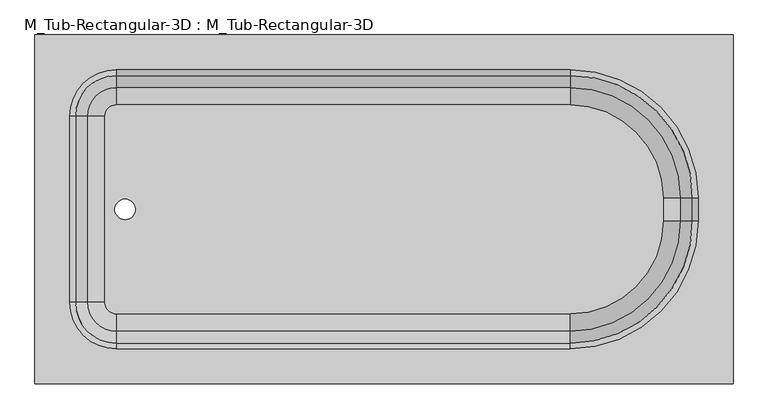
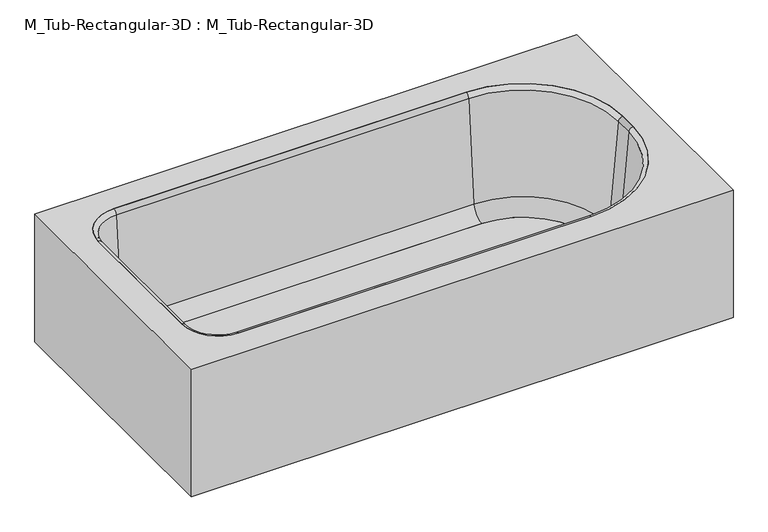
"""IFC4 building model written with IfcOpenShell, lengths in millimetres: flow terminal geometry, M_Tub-Rectangular-3D : M_Tub-Rectangular-3D."""

from ifc_helpers import new_model, si_unit, point, frame, frame_2d, origin, place, context, project, spatial, polyline, circle_curve, ellipse_curve, trimmed, segment, composite_curve, outline, extrude, source, transform, mapped, element, save
from ifc_brep_helpers import plane_surface, cylinder_surface, revolved_surface, advanced_brep


def m_tub_rectangular_3d_m_tub_rectangular_3d_3a981ad5(model_context):
    return source(origin(), model_context, "Body", "SolidModel", [
        advanced_brep(
        [(414.3970313, -937.0, 380.0), (414.3970313, -175.0, 380.0), (-1110.6029687, -175.0, 380.0), (-1110.6029687, -937.0, 380.0), (-932.8029687, -860.8, 380.0), (-1034.4029687, -759.2, 380.0), (-1034.4029687, -352.8, 380.0), (-932.8029687, -251.2, 380.0), (58.7970313, -251.2, 380.0), (338.1970313, -530.6, 380.0), (338.1970313, -581.4, 380.0), (58.7970313, -860.8, 380.0), (395.3470313, -917.95, 360.95), (-1091.5529687, -917.95, 360.95), (-1091.5529687, -194.05, 360.95), (395.3470313, -194.05, 360.95), (-932.8029687, -860.8, 360.95), (58.7970313, -860.8, 360.95), (338.1970313, -581.4, 360.95), (338.1970313, -530.6, 360.95), (58.7970313, -251.2, 360.95), (-932.8029687, -251.2, 360.95), (-1034.4029687, -352.8, 360.95), (-1034.4029687, -759.2, 360.95), (-1110.6029687, -937.0, 0.0), (414.3970313, -937.0, 0.0), (-1110.6029687, -175.0, 0.0), (414.3970313, -175.0, 0.0), (395.3470313, -917.95, 0.0), (395.3470313, -194.05, 0.0), (-1091.5529687, -194.05, 0.0), (-1091.5529687, -917.95, 0.0)],
        [
            (0, 1),
            (1, 2),
            (2, 3),
            (3, 0),
            (4, 5, circle_curve(frame((-932.8029687, -759.2, 380.0), z_axis=(0.0, 0.0, -1.0), x_axis=(0.0, -1.0, 0.0)), 101.6)),
            (5, 6),
            (6, 7, circle_curve(frame((-932.8029687, -352.8, 380.0), z_axis=(0.0, 0.0, -1.0), x_axis=(0.0, -1.0, 0.0)), 101.6)),
            (7, 8),
            (8, 9, circle_curve(frame((58.7970313, -530.6, 380.0), z_axis=(0.0, 0.0, -1.0), x_axis=(0.0, -1.0, 0.0)), 279.4)),
            (9, 10),
            (10, 11, circle_curve(frame((58.7970313, -581.4, 380.0), z_axis=(0.0, 0.0, -1.0), x_axis=(0.0, -1.0, 0.0)), 279.4)),
            (11, 4),
            (12, 13),
            (13, 14),
            (14, 15),
            (15, 12),
            (16, 17),
            (17, 18, circle_curve(frame((58.7970313, -581.4, 360.95), z_axis=(0.0, 0.0, 1.0), x_axis=(0.0, -1.0, 0.0)), 279.4)),
            (18, 19),
            (19, 20, circle_curve(frame((58.7970313, -530.6, 360.95), z_axis=(0.0, 0.0, 1.0), x_axis=(0.0, -1.0, 0.0)), 279.4)),
            (20, 21),
            (21, 22, circle_curve(frame((-932.8029687, -352.8, 360.95), z_axis=(0.0, 0.0, 1.0), x_axis=(0.0, -1.0, 0.0)), 101.6)),
            (22, 23),
            (23, 16, circle_curve(frame((-932.8029687, -759.2, 360.95), z_axis=(0.0, 0.0, 1.0), x_axis=(0.0, -1.0, 0.0)), 101.6)),
            (3, 24),
            (24, 25),
            (25, 0),
            (2, 26),
            (26, 24),
            (1, 27),
            (27, 26),
            (25, 27),
            (11, 17),
            (16, 4),
            (10, 18),
            (9, 19),
            (8, 20),
            (7, 21),
            (6, 22),
            (5, 23),
            (28, 29),
            (29, 30),
            (30, 31),
            (31, 28),
            (28, 12),
            (15, 29),
            (14, 30),
            (13, 31),
        ],
        [
            plane_surface(frame((-1110.6029687, -937.0, 380.0), z_axis=(0.0, 0.0, 1.0), x_axis=(-1.0, 0.0, 0.0))),
            plane_surface(frame((-1110.6029687, -937.0, 360.95), z_axis=(0.0, 0.0, -1.0), x_axis=(1.0, 0.0, 0.0))),
            plane_surface(frame((414.3970313, -937.0, 380.0), z_axis=(0.0, -1.0, 0.0), x_axis=(0.0, 0.0, -1.0))),
            plane_surface(frame((-1110.6029687, -937.0, 380.0), z_axis=(-1.0, 0.0, 0.0), x_axis=(0.0, 0.0, -1.0))),
            plane_surface(frame((-1110.6029687, -175.0, 380.0), z_axis=(0.0, 1.0, 0.0), x_axis=(0.0, 0.0, -1.0))),
            plane_surface(frame((414.3970313, -175.0, 380.0), z_axis=(1.0, 0.0, 0.0), x_axis=(0.0, 0.0, -1.0))),
            plane_surface(frame((-932.8029687, -860.8, 380.0), z_axis=(0.0, 1.0, 0.0), x_axis=(0.0, 0.0, -1.0))),
            revolved_surface(polyline([(58.7970313, -860.8, 360.95), (58.7970313, -860.8, 380.0)]), (58.7970313, -581.4, 380.0), (0.0, 0.0, -1.0)),
            plane_surface(frame((338.1970313, -581.4, 380.0), z_axis=(-1.0, 0.0, 0.0), x_axis=(0.0, 0.0, -1.0))),
            revolved_surface(polyline([(58.7970313, -810.0, 360.95), (58.7970313, -810.0, 380.0)]), (58.7970313, -530.6, 380.0), (0.0, 0.0, -1.0)),
            plane_surface(frame((58.7970313, -251.2, 380.0), z_axis=(0.0, -1.0, 0.0), x_axis=(0.0, 0.0, -1.0))),
            revolved_surface(polyline([(-932.8029687, -454.4, 360.95), (-932.8029687, -454.4, 380.0)]), (-932.8029687, -352.8, 380.0), (0.0, 0.0, -1.0)),
            plane_surface(frame((-1034.4029687, -352.8, 380.0), z_axis=(1.0, 0.0, 0.0), x_axis=(0.0, 0.0, -1.0))),
            revolved_surface(polyline([(-932.8029687, -860.8000000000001, 360.95), (-932.8029687, -860.8000000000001, 380.0)]), (-932.8029687, -759.2, 380.0), (0.0, 0.0, -1.0)),
            plane_surface(frame((-1110.6029687, -937.0, 0.0), z_axis=(0.0, 0.0, -1.0), x_axis=(1.0, 0.0, 0.0))),
            plane_surface(frame((395.3470313, -917.95, 360.95), z_axis=(-1.0, 0.0, 0.0), x_axis=(0.0, 0.0, -1.0))),
            plane_surface(frame((395.3470313, -194.05, 360.95), z_axis=(0.0, -1.0, 0.0), x_axis=(0.0, 0.0, -1.0))),
            plane_surface(frame((-1091.5529687, -194.05, 360.95), z_axis=(1.0, 0.0, 0.0), x_axis=(0.0, 0.0, -1.0))),
            plane_surface(frame((-1091.5529687, -917.95, 360.95), z_axis=(0.0, 1.0, 0.0), x_axis=(0.0, 0.0, -1.0))),
        ],
        [
            (0, [[1, 2, 3, 4], [5, 6, 7, 8, 9, 10, 11, 12]]),
            (1, [[13, 14, 15, 16], [17, 18, 19, 20, 21, 22, 23, 24]]),
            (2, [[25, 26, 27, -4]]),
            (3, [[28, 29, -25, -3]]),
            (4, [[30, 31, -28, -2]]),
            (5, [[32, -30, -1, -27]]),
            (6, [[33, -17, 34, -12]]),
            (7, [[35, -18, -33, -11]]),
            (8, [[36, -19, -35, -10]]),
            (9, [[37, -20, -36, -9]]),
            (10, [[38, -21, -37, -8]]),
            (11, [[39, -22, -38, -7]]),
            (12, [[40, -23, -39, -6]]),
            (13, [[-34, -24, -40, -5]]),
            (14, [[-26, -29, -31, -32], [41, 42, 43, 44]]),
            (15, [[45, -16, 46, -41]]),
            (16, [[-46, -15, 47, -42]]),
            (17, [[-47, -14, 48, -43]]),
            (18, [[-48, -13, -45, -44]]),
        ],
    ),
        extrude(outline(composite_curve([segment(polyline([(58.7970313, -784.1964741), (-932.8029687, -784.1964741)]), True, "CONTINUOUS"), segment(trimmed(circle_curve(frame_2d((-932.8029687, -759.2)), 24.9964741), [point((-932.8029687, -784.1964741))], [point((-957.7994428, -759.2))], False, "CARTESIAN"), True, "CONTINUOUS"), segment(polyline([(-957.7994428, -759.2), (-957.7994428, -352.8)]), True, "CONTINUOUS"), segment(trimmed(circle_curve(frame_2d((-932.8029687, -352.8)), 24.9964741), [point((-957.7994428, -352.8))], [point((-932.8029687, -327.8035259))], False, "CARTESIAN"), True, "CONTINUOUS"), segment(polyline([(-932.8029687, -327.8035259), (58.7970313, -327.8035259)]), True, "CONTINUOUS"), segment(trimmed(circle_curve(frame_2d((58.7970313, -530.6)), 202.7964741), [point((58.7970313, -327.8035259))], [point((261.5935054, -530.6))], False, "CARTESIAN"), True, "CONTINUOUS"), segment(polyline([(261.5935054, -530.6), (261.5935054, -581.4)]), True, "CONTINUOUS"), segment(trimmed(circle_curve(frame_2d((58.7970313, -581.4)), 202.7964741), [point((261.5935054, -581.4))], [point((58.7970313, -784.1964741))], False, "CARTESIAN"), True, "CONTINUOUS")], self_intersect=False), holes=[composite_curve([segment(trimmed(circle_curve(frame_2d((-913.5971625, -556.0)), 22.225), [point((-913.5971625, -578.225))], [point((-913.5971625, -533.775))], True, "CARTESIAN"), True, "CONTINUOUS"), segment(trimmed(circle_curve(frame_2d((-913.5971625, -556.0)), 22.225), [point((-913.5971625, -533.775))], [point((-913.5971625, -578.225))], True, "CARTESIAN"), True, "CONTINUOUS")], self_intersect=False)]), frame((0.0, 0.0, 15.863573), z_axis=(0.0, 0.0, 1.0), x_axis=(1.0, 0.0, 0.0)), (0.0, 0.0, 1.0), 19.05),
        advanced_brep(
        [(-995.7544608, -759.2, 69.6929392), (-1021.9249722, -759.2, 368.8232535), (-932.8029687, -848.3220035, 368.8232535), (-932.8029687, -822.1514921, 69.6929392), (-957.7994428, -759.2, 34.913573), (-932.8029687, -784.1964741, 34.913573), (-957.7994428, -759.2, 15.863573), (-932.8029687, -784.1964741, 15.863573), (-1034.4029687, -759.2, 15.863573), (-932.8029687, -860.8, 15.863573), (-1034.4029687, -759.2, 380.0), (-932.8029687, -860.8, 380.0), (-995.7544608, -352.8, 69.6929392), (-1021.9249722, -352.8, 368.8232535), (-957.7994428, -352.8, 34.913573), (-957.7994428, -352.8, 15.863573), (-1034.4029687, -352.8, 15.863573), (-1034.4029687, -352.8, 380.0), (-932.8029687, -289.8485079, 69.6929392), (-932.8029687, -263.6779965, 368.8232535), (-932.8029687, -327.8035259, 34.913573), (-932.8029687, -327.8035259, 15.863573), (-932.8029687, -251.2, 15.863573), (-932.8029687, -251.2, 380.0), (58.7970313, -289.8485079, 69.6929392), (58.7970313, -263.6779965, 368.8232535), (58.7970313, -327.8035259, 34.913573), (58.7970313, -327.8035259, 15.863573), (58.7970313, -251.2, 15.863573), (58.7970313, -251.2, 380.0), (299.5485234, -530.6, 69.6929392), (325.7190348, -530.6, 368.8232535), (261.5935054, -530.6, 34.913573), (261.5935054, -530.6, 15.863573), (338.1970313, -530.6, 15.863573), (338.1970313, -530.6, 380.0), (299.5485234, -581.4, 69.6929392), (325.7190348, -581.4, 368.8232535), (261.5935054, -581.4, 34.913573), (261.5935054, -581.4, 15.863573), (338.1970313, -581.4, 15.863573), (338.1970313, -581.4, 380.0), (58.7970313, -822.1514921, 69.6929392), (58.7970313, -848.3220035, 368.8232535), (58.7970313, -784.1964741, 34.913573), (58.7970313, -784.1964741, 15.863573), (58.7970313, -860.8, 15.863573), (58.7970313, -860.8, 380.0)],
        [
            (0, 1),
            (1, 2, circle_curve(frame((-932.8029687, -759.2, 368.8232535), z_axis=(0.0, 0.0, 1.0), x_axis=(0.0, -1.0, 0.0)), 89.1220035)),
            (2, 3),
            (3, 0, circle_curve(frame((-932.8029687, -759.2, 69.6929392), z_axis=(0.0, 0.0, -1.0), x_axis=(0.0, -1.0, 0.0)), 62.9514921)),
            (4, 0, circle_curve(frame((-957.7994428, -759.2, 73.013573), z_axis=(0.0, 1.0, 0.0), x_axis=(1.0, 0.0, 0.0)), 38.1)),
            (3, 5, circle_curve(frame((-932.8029687, -784.1964741, 73.013573), z_axis=(1.0, 0.0, 0.0), x_axis=(0.0, 1.0, 0.0)), 38.1)),
            (5, 4, circle_curve(frame((-932.8029687, -759.2, 34.913573), z_axis=(0.0, 0.0, -1.0), x_axis=(0.0, -1.0, 0.0)), 24.9964741)),
            (6, 4),
            (5, 7),
            (7, 6, circle_curve(frame((-932.8029687, -759.2, 15.863573), z_axis=(0.0, 0.0, -1.0), x_axis=(0.0, -1.0, 0.0)), 24.9964741)),
            (8, 6),
            (7, 9),
            (9, 8, circle_curve(frame((-932.8029687, -759.2, 15.863573), z_axis=(0.0, 0.0, -1.0), x_axis=(0.0, -1.0, 0.0)), 101.6)),
            (10, 8),
            (9, 11),
            (11, 10, circle_curve(frame((-932.8029687, -759.2, 380.0), z_axis=(0.0, 0.0, -1.0), x_axis=(0.0, -1.0, 0.0)), 101.6)),
            (1, 10, circle_curve(frame((-1034.4029687, -759.2, 367.4462547), z_axis=(0.0, -1.0, 0.0), x_axis=(1.0, 0.0, 0.0)), 12.5537453)),
            (11, 2, circle_curve(frame((-932.8029687, -860.8, 367.4462547), z_axis=(-1.0, 0.0, 0.0), x_axis=(0.0, 1.0, 0.0)), 12.5537453)),
            (0, 12),
            (12, 13),
            (13, 1),
            (4, 14),
            (14, 12, circle_curve(frame((-957.7994428, -352.8, 73.013573), z_axis=(0.0, 1.0, 0.0), x_axis=(1.0, 0.0, 0.0)), 38.1)),
            (6, 15),
            (15, 14),
            (8, 16),
            (16, 15),
            (10, 17),
            (17, 16),
            (13, 17, circle_curve(frame((-1034.4029687, -352.8, 367.4462547), z_axis=(0.0, -1.0, 0.0), x_axis=(1.0, 0.0, 0.0)), 12.5537453)),
            (18, 19),
            (19, 13, circle_curve(frame((-932.8029687, -352.8, 368.8232535), z_axis=(0.0, 0.0, 1.0), x_axis=(-1.0, 0.0, 0.0)), 89.1220035)),
            (12, 18, circle_curve(frame((-932.8029687, -352.8, 69.6929392), z_axis=(0.0, 0.0, -1.0), x_axis=(-1.0, 0.0, 0.0)), 62.9514921)),
            (20, 18, circle_curve(frame((-932.8029687, -327.8035259, 73.013573), z_axis=(1.0, 0.0, 0.0), x_axis=(0.0, -1.0, 0.0)), 38.1)),
            (14, 20, circle_curve(frame((-932.8029687, -352.8, 34.913573), z_axis=(0.0, 0.0, -1.0), x_axis=(-1.0, 0.0, 0.0)), 24.9964741)),
            (21, 20),
            (15, 21, circle_curve(frame((-932.8029687, -352.8, 15.863573), z_axis=(0.0, 0.0, -1.0), x_axis=(-1.0, 0.0, 0.0)), 24.9964741)),
            (22, 21),
            (16, 22, circle_curve(frame((-932.8029687, -352.8, 15.863573), z_axis=(0.0, 0.0, -1.0), x_axis=(-1.0, 0.0, 0.0)), 101.6)),
            (23, 22),
            (17, 23, circle_curve(frame((-932.8029687, -352.8, 380.0), z_axis=(0.0, 0.0, -1.0), x_axis=(-1.0, 0.0, 0.0)), 101.6)),
            (19, 23, circle_curve(frame((-932.8029687, -251.2, 367.4462547), z_axis=(-1.0, 0.0, 0.0), x_axis=(0.0, -1.0, 0.0)), 12.5537453)),
            (18, 24),
            (24, 25),
            (25, 19),
            (20, 26),
            (26, 24, circle_curve(frame((58.7970313, -327.8035259, 73.013573), z_axis=(1.0, 0.0, 0.0), x_axis=(0.0, -1.0, 0.0)), 38.1)),
            (21, 27),
            (27, 26),
            (22, 28),
            (28, 27),
            (23, 29),
            (29, 28),
            (25, 29, circle_curve(frame((58.7970313, -251.2, 367.4462547), z_axis=(-1.0, 0.0, 0.0), x_axis=(0.0, -1.0, 0.0)), 12.5537453)),
            (30, 31),
            (31, 25, circle_curve(frame((58.7970313, -530.6, 368.8232535), z_axis=(0.0, 0.0, 1.0), x_axis=(0.0, 1.0, 0.0)), 266.9220035)),
            (24, 30, circle_curve(frame((58.7970313, -530.6, 69.6929392), z_axis=(0.0, 0.0, -1.0), x_axis=(0.0, 1.0, 0.0)), 240.7514921)),
            (32, 30, circle_curve(frame((261.5935054, -530.6, 73.013573), z_axis=(0.0, -1.0, 0.0), x_axis=(-1.0, 0.0, 0.0)), 38.1)),
            (26, 32, circle_curve(frame((58.7970313, -530.6, 34.913573), z_axis=(0.0, 0.0, -1.0), x_axis=(0.0, 1.0, 0.0)), 202.7964741)),
            (33, 32),
            (27, 33, circle_curve(frame((58.7970313, -530.6, 15.863573), z_axis=(0.0, 0.0, -1.0), x_axis=(0.0, 1.0, 0.0)), 202.7964741)),
            (34, 33),
            (28, 34, circle_curve(frame((58.7970313, -530.6, 15.863573), z_axis=(0.0, 0.0, -1.0), x_axis=(0.0, 1.0, 0.0)), 279.4)),
            (35, 34),
            (29, 35, circle_curve(frame((58.7970313, -530.6, 380.0), z_axis=(0.0, 0.0, -1.0), x_axis=(0.0, 1.0, 0.0)), 279.4)),
            (31, 35, circle_curve(frame((338.1970313, -530.6, 367.4462547), z_axis=(0.0, 1.0, 0.0), x_axis=(-1.0, 0.0, 0.0)), 12.5537453)),
            (30, 36),
            (36, 37),
            (37, 31),
            (32, 38),
            (38, 36, circle_curve(frame((261.5935054, -581.4, 73.013573), z_axis=(0.0, -1.0, 0.0), x_axis=(-1.0, 0.0, 0.0)), 38.1)),
            (33, 39),
            (39, 38),
            (34, 40),
            (40, 39),
            (35, 41),
            (41, 40),
            (37, 41, circle_curve(frame((338.1970313, -581.4, 367.4462547), z_axis=(0.0, 1.0, 0.0), x_axis=(-1.0, 0.0, 0.0)), 12.5537453)),
            (42, 43),
            (43, 37, circle_curve(frame((58.7970313, -581.4, 368.8232535), z_axis=(0.0, 0.0, 1.0), x_axis=(1.0, 0.0, 0.0)), 266.9220035)),
            (36, 42, circle_curve(frame((58.7970313, -581.4, 69.6929392), z_axis=(0.0, 0.0, -1.0), x_axis=(1.0, 0.0, 0.0)), 240.7514921)),
            (44, 42, circle_curve(frame((58.7970313, -784.1964741, 73.013573), z_axis=(-1.0, 0.0, 0.0), x_axis=(0.0, 1.0, 0.0)), 38.1)),
            (38, 44, circle_curve(frame((58.7970313, -581.4, 34.913573), z_axis=(0.0, 0.0, -1.0), x_axis=(1.0, 0.0, 0.0)), 202.7964741)),
            (45, 44),
            (39, 45, circle_curve(frame((58.7970313, -581.4, 15.863573), z_axis=(0.0, 0.0, -1.0), x_axis=(1.0, 0.0, 0.0)), 202.7964741)),
            (46, 45),
            (40, 46, circle_curve(frame((58.7970313, -581.4, 15.863573), z_axis=(0.0, 0.0, -1.0), x_axis=(1.0, 0.0, 0.0)), 279.4)),
            (47, 46),
            (41, 47, circle_curve(frame((58.7970313, -581.4, 380.0), z_axis=(0.0, 0.0, -1.0), x_axis=(1.0, 0.0, 0.0)), 279.4)),
            (43, 47, circle_curve(frame((58.7970313, -860.8, 367.4462547), z_axis=(1.0, 0.0, 0.0), x_axis=(0.0, 1.0, 0.0)), 12.5537453)),
            (42, 3),
            (2, 43),
            (44, 5),
            (45, 7),
            (46, 9),
            (47, 11),
        ],
        [
            revolved_surface(polyline([(-932.8029687, -848.3220035, 368.8232535), (-932.8029687, -822.1514921, 69.6929392)]), (-932.8029687, -759.2, 380.0), (0.0, 0.0, 1.0)),
            revolved_surface(trimmed(ellipse_curve(frame((-932.8029687, -784.1964741, 73.013573), z_axis=(1.0, 0.0, 0.0), x_axis=(0.0, 1.0, 0.0)), 38.1, 38.1), [point((-932.8029687, -822.1514921, 69.6929392))], [point((-932.8029687, -784.1964741, 34.913573))], True, "CARTESIAN"), (-932.8029687, -759.2, 380.0), (0.0, 0.0, 1.0)),
            revolved_surface(polyline([(-932.8029687, -784.1964741, 34.913572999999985), (-932.8029687, -784.1964741, 15.863572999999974)]), (-932.8029687, -759.2, 380.0), (0.0, 0.0, 1.0)),
            plane_surface(frame((-932.8029687, -759.2, 15.863573), z_axis=(0.0, 0.0, -1.0), x_axis=(0.0, -1.0, 0.0))),
            cylinder_surface(frame((-932.8029687, -759.2, 380.0), z_axis=(0.0, 0.0, 1.0), x_axis=(0.0, -1.0, 0.0)), 101.6),
            revolved_surface(trimmed(ellipse_curve(frame((-932.8029687, -860.8, 367.4462547), z_axis=(-1.0, 0.0, 0.0), x_axis=(0.0, 1.0, 0.0)), 12.5537453, 12.5537453), [point((-932.8029687, -860.8, 380.0))], [point((-932.8029687, -848.3220035, 368.8232535))], True, "CARTESIAN"), (-932.8029687, -759.2, 380.0), (0.0, 0.0, 1.0)),
            plane_surface(frame((-1021.9249722, -759.2, 368.8232535), z_axis=(0.9961946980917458, 0.0, 0.08715574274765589), x_axis=(0.0, 1.0, 0.0))),
            revolved_surface(polyline([(-919.6994427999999, -352.8, 73.013573), (-919.6994427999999, -759.2, 73.013573)]), (-957.7994428, -759.2, 73.013573), (0.0, 1.0, 0.0)),
            plane_surface(frame((-957.7994428, -759.2, 34.913573), z_axis=(1.0, 0.0, 0.0), x_axis=(0.0, 1.0, 0.0))),
            plane_surface(frame((-957.7994428, -759.2, 15.863573), z_axis=(0.0, 0.0, -1.0), x_axis=(0.0, 1.0, 0.0))),
            plane_surface(frame((-1034.4029687, -759.2, 15.863573), z_axis=(-1.0, 0.0, 0.0), x_axis=(0.0, 1.0, 0.0))),
            cylinder_surface(frame((-1034.4029687, -759.2, 367.4462547), z_axis=(0.0, -1.0, 0.0), x_axis=(1.0, 0.0, 0.0)), 12.5537453),
            revolved_surface(polyline([(-1021.9249722, -352.8, 368.8232535), (-995.7544608, -352.8, 69.6929392)]), (-932.8029687, -352.8, 380.0), (0.0, 0.0, 1.0)),
            revolved_surface(trimmed(ellipse_curve(frame((-957.7994428, -352.8, 73.013573), z_axis=(0.0, -1.0, 0.0), x_axis=(1.0, 0.0, 0.0)), 38.1, 38.1), [point((-995.7544608, -352.8, 69.6929392))], [point((-957.7994428, -352.8, 34.913573))], True, "CARTESIAN"), (-932.8029687, -352.8, 380.0), (0.0, 0.0, 1.0)),
            revolved_surface(polyline([(-957.7994428, -352.8, 34.913572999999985), (-957.7994428, -352.8, 15.863572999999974)]), (-932.8029687, -352.8, 380.0), (0.0, 0.0, 1.0)),
            plane_surface(frame((-932.8029687, -352.8, 15.863573), z_axis=(0.0, 0.0, -1.0), x_axis=(-1.0, 0.0, 0.0))),
            cylinder_surface(frame((-932.8029687, -352.8, 380.0), z_axis=(0.0, 0.0, 1.0), x_axis=(-1.0, 0.0, 0.0)), 101.6),
            revolved_surface(trimmed(ellipse_curve(frame((-1034.4029687, -352.8, 367.4462547), z_axis=(0.0, 1.0, 0.0), x_axis=(1.0, 0.0, 0.0)), 12.5537453, 12.5537453), [point((-1034.4029687, -352.8, 380.0))], [point((-1021.9249722, -352.8, 368.8232535))], True, "CARTESIAN"), (-932.8029687, -352.8, 380.0), (0.0, 0.0, 1.0)),
            plane_surface(frame((-932.8029687, -263.6779965, 368.8232535), z_axis=(0.0, -0.9961946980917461, 0.08715574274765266), x_axis=(1.0, 0.0, 0.0))),
            revolved_surface(polyline([(58.79703129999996, -365.90352590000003, 73.013573), (-932.8029687, -365.90352590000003, 73.013573)]), (-932.8029687, -327.8035259, 73.013573), (1.0, 0.0, 0.0)),
            plane_surface(frame((-932.8029687, -327.8035259, 34.913573), z_axis=(0.0, -1.0, 0.0), x_axis=(1.0, 0.0, 0.0))),
            plane_surface(frame((-932.8029687, -327.8035259, 15.863573), z_axis=(0.0, 0.0, -1.0), x_axis=(1.0, 0.0, 0.0))),
            plane_surface(frame((-932.8029687, -251.2, 15.863573), z_axis=(0.0, 1.0, 0.0), x_axis=(1.0, 0.0, 0.0))),
            cylinder_surface(frame((-932.8029687, -251.2, 367.4462547), z_axis=(-1.0, 0.0, 0.0), x_axis=(0.0, -1.0, 0.0)), 12.5537453),
            revolved_surface(polyline([(58.7970313, -263.6779965, 368.8232535), (58.7970313, -289.8485079, 69.6929392)]), (58.7970313, -530.6, 380.0), (0.0, 0.0, 1.0)),
            revolved_surface(trimmed(ellipse_curve(frame((58.7970313, -327.8035259, 73.013573), z_axis=(-1.0, 0.0, 0.0), x_axis=(0.0, -1.0, 0.0)), 38.1, 38.1), [point((58.7970313, -289.8485079, 69.6929392))], [point((58.7970313, -327.8035259, 34.913573))], True, "CARTESIAN"), (58.7970313, -530.6, 380.0), (0.0, 0.0, 1.0)),
            revolved_surface(polyline([(58.7970313, -327.8035259, 34.913572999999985), (58.7970313, -327.8035259, 15.863572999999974)]), (58.7970313, -530.6, 380.0), (0.0, 0.0, 1.0)),
            plane_surface(frame((58.7970313, -530.6, 15.863573), z_axis=(0.0, 0.0, -1.0), x_axis=(0.0, 1.0, 0.0))),
            cylinder_surface(frame((58.7970313, -530.6, 380.0), z_axis=(0.0, 0.0, 1.0), x_axis=(0.0, 1.0, 0.0)), 279.4),
            revolved_surface(trimmed(ellipse_curve(frame((58.7970313, -251.2, 367.4462547), z_axis=(1.0, 0.0, 0.0), x_axis=(0.0, -1.0, 0.0)), 12.5537453, 12.5537453), [point((58.7970313, -251.2, 380.0))], [point((58.7970313, -263.6779965, 368.8232535))], True, "CARTESIAN"), (58.7970313, -530.6, 380.0), (0.0, 0.0, 1.0)),
            plane_surface(frame((325.7190348, -530.6, 368.8232535), z_axis=(-0.9961946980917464, 0.0, 0.08715574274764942), x_axis=(0.0, -1.0, 0.0))),
            revolved_surface(polyline([(223.49350540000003, -581.4, 73.013573), (223.49350540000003, -530.6, 73.013573)]), (261.5935054, -530.6, 73.013573), (0.0, -1.0, 0.0)),
            plane_surface(frame((261.5935054, -530.6, 34.913573), z_axis=(-1.0, 0.0, 0.0), x_axis=(0.0, -1.0, 0.0))),
            plane_surface(frame((261.5935054, -530.6, 15.863573), z_axis=(0.0, 0.0, -1.0), x_axis=(0.0, -1.0, 0.0))),
            plane_surface(frame((338.1970313, -530.6, 15.863573), z_axis=(1.0, 0.0, 0.0), x_axis=(0.0, -1.0, 0.0))),
            cylinder_surface(frame((338.1970313, -530.6, 367.4462547), z_axis=(0.0, 1.0, 0.0), x_axis=(-1.0, 0.0, 0.0)), 12.5537453),
            revolved_surface(polyline([(325.7190348, -581.4, 368.8232535), (299.5485234, -581.4, 69.6929392)]), (58.7970313, -581.4, 380.0), (0.0, 0.0, 1.0)),
            revolved_surface(trimmed(ellipse_curve(frame((261.5935054, -581.4, 73.013573), z_axis=(0.0, 1.0, 0.0), x_axis=(-1.0, 0.0, 0.0)), 38.1, 38.1), [point((299.5485234, -581.4, 69.6929392))], [point((261.5935054, -581.4, 34.913573))], True, "CARTESIAN"), (58.7970313, -581.4, 380.0), (0.0, 0.0, 1.0)),
            revolved_surface(polyline([(261.5935054, -581.4, 34.913572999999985), (261.5935054, -581.4, 15.863572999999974)]), (58.7970313, -581.4, 380.0), (0.0, 0.0, 1.0)),
            plane_surface(frame((58.7970313, -581.4, 15.863573), z_axis=(0.0, 0.0, -1.0), x_axis=(1.0, 0.0, 0.0))),
            cylinder_surface(frame((58.7970313, -581.4, 380.0), z_axis=(0.0, 0.0, 1.0), x_axis=(1.0, 0.0, 0.0)), 279.4),
            revolved_surface(trimmed(ellipse_curve(frame((338.1970313, -581.4, 367.4462547), z_axis=(0.0, -1.0, 0.0), x_axis=(-1.0, 0.0, 0.0)), 12.5537453, 12.5537453), [point((338.1970313, -581.4, 380.0))], [point((325.7190348, -581.4, 368.8232535))], True, "CARTESIAN"), (58.7970313, -581.4, 380.0), (0.0, 0.0, 1.0)),
            plane_surface(frame((58.7970313, -848.3220035, 368.8232535), z_axis=(0.0, 0.9961946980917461, 0.08715574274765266), x_axis=(-1.0, 0.0, 0.0))),
            revolved_surface(polyline([(-932.8029687, -746.0964741, 73.013573), (58.7970313, -746.0964741, 73.013573)]), (58.7970313, -784.1964741, 73.013573), (-1.0, 0.0, 0.0)),
            plane_surface(frame((58.7970313, -784.1964741, 34.913573), z_axis=(0.0, 1.0, 0.0), x_axis=(-1.0, 0.0, 0.0))),
            plane_surface(frame((58.7970313, -784.1964741, 15.863573), z_axis=(0.0, 0.0, -1.0), x_axis=(-1.0, 0.0, 0.0))),
            plane_surface(frame((58.7970313, -860.8, 15.863573), z_axis=(0.0, -1.0, 0.0), x_axis=(-1.0, 0.0, 0.0))),
            cylinder_surface(frame((58.7970313, -860.8, 367.4462547), z_axis=(1.0, 0.0, 0.0), x_axis=(0.0, 1.0, 0.0)), 12.5537453),
        ],
        [
            (0, [[1, 2, 3, 4]]),
            (1, [[5, -4, 6, 7]]),
            (2, [[8, -7, 9, 10]]),
            (3, [[11, -10, 12, 13]]),
            (4, [[14, -13, 15, 16]]),
            (5, [[17, -16, 18, -2]]),
            (6, [[19, 20, 21, -1]]),
            (7, [[22, 23, -19, -5]]),
            (8, [[24, 25, -22, -8]]),
            (9, [[26, 27, -24, -11]]),
            (10, [[28, 29, -26, -14]]),
            (11, [[-21, 30, -28, -17]]),
            (12, [[31, 32, -20, 33]]),
            (13, [[34, -33, -23, 35]]),
            (14, [[36, -35, -25, 37]]),
            (15, [[38, -37, -27, 39]]),
            (16, [[40, -39, -29, 41]]),
            (17, [[42, -41, -30, -32]]),
            (18, [[43, 44, 45, -31]]),
            (19, [[46, 47, -43, -34]]),
            (20, [[48, 49, -46, -36]]),
            (21, [[50, 51, -48, -38]]),
            (22, [[52, 53, -50, -40]]),
            (23, [[-45, 54, -52, -42]]),
            (24, [[55, 56, -44, 57]]),
            (25, [[58, -57, -47, 59]]),
            (26, [[60, -59, -49, 61]]),
            (27, [[62, -61, -51, 63]]),
            (28, [[64, -63, -53, 65]]),
            (29, [[66, -65, -54, -56]]),
            (30, [[67, 68, 69, -55]]),
            (31, [[70, 71, -67, -58]]),
            (32, [[72, 73, -70, -60]]),
            (33, [[74, 75, -72, -62]]),
            (34, [[76, 77, -74, -64]]),
            (35, [[-69, 78, -76, -66]]),
            (36, [[79, 80, -68, 81]]),
            (37, [[82, -81, -71, 83]]),
            (38, [[84, -83, -73, 85]]),
            (39, [[86, -85, -75, 87]]),
            (40, [[88, -87, -77, 89]]),
            (41, [[90, -89, -78, -80]]),
            (42, [[91, -3, 92, -79]]),
            (43, [[93, -6, -91, -82]]),
            (44, [[94, -9, -93, -84]]),
            (45, [[95, -12, -94, -86]]),
            (46, [[96, -15, -95, -88]]),
            (47, [[-92, -18, -96, -90]]),
        ],
    ),
    ])


if __name__ == "__main__":
    model = new_model("IFC4")
    model_context = context("Model", 3, world=origin())
    ifc_project = project(units=[si_unit("LENGTHUNIT", "METRE", prefix="MILLI")], contexts=[model_context])
    site = spatial("IfcSite", under=ifc_project)
    building = spatial("IfcBuilding", under=site)
    placement = place(None, origin())
    m_tub_rectangular_3d_m_tub_rectangular_3d_shape = m_tub_rectangular_3d_m_tub_rectangular_3d_3a981ad5(model_context)
    element("IfcFlowTerminal", 1, ObjectType="M_Tub-Rectangular-3D : M_Tub-Rectangular-3D", at=placement, inside=building, context=model_context, shape_type="MappedRepresentation", body=[
        mapped(m_tub_rectangular_3d_m_tub_rectangular_3d_shape, transform((0.0, 0.0, 0.0), x_axis=(1.0, 0.0, 0.0), y_axis=(0.0, 1.0, 0.0), z_axis=(0.0, 0.0, 1.0))),
    ])
    save(model, "model.ifc")
